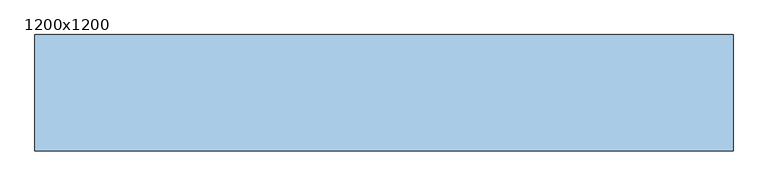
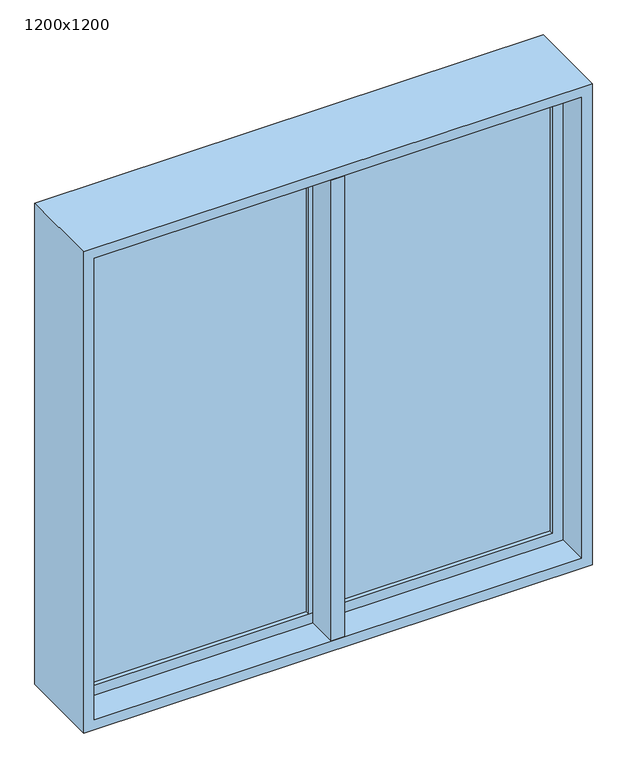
"""IFC4 building model written with IfcOpenShell, lengths in millimetres: window geometry, NBeS_2 Panel Window-w_o Automatic Openable : 1200x1200."""

from ifc_helpers import new_model, si_unit, frame, origin, place, context, project, spatial, polyline, outline, extrude, faceted_brep, source, transform, mapped, element, save


def window_1200x1200_17e9bfca(model_context):
    return source(origin(), model_context, "Body", "SolidModel", [
        faceted_brep([(575.0, 25.0, 2275.0), (575.0, 100.0, 2275.0), (575.0, 100.0, 1125.0), (575.0, 25.0, 1125.0), (600.0, 100.0, 2300.0), (600.0, 100.0, 1100.0), (-600.0, 100.0, 1100.0), (-600.0, 100.0, 2300.0), (-575.0, 100.0, 2275.0), (-575.0, 100.0, 1125.0), (-575.0, 25.0, 1125.0), (-575.0, 25.0, 2275.0), (-550.0, 25.0, 2250.0), (-550.0, 25.0, 1150.0), (550.0, 25.0, 1150.0), (550.0, 25.0, 2250.0), (550.0, -25.0, 2250.0), (550.0, -25.0, 1150.0), (-550.0, -25.0, 1150.0), (-575.0, -25.0, 2275.0), (-575.0, -25.0, 1125.0), (575.0, -25.0, 1125.0), (575.0, -25.0, 2275.0), (-550.0, -25.0, 2250.0), (575.0, -100.0, 2275.0), (575.0, -100.0, 1125.0), (-575.0, -100.0, 1125.0), (-600.0, -100.0, 2300.0), (-600.0, -100.0, 1100.0), (600.0, -100.0, 1100.0), (600.0, -100.0, 2300.0), (-575.0, -100.0, 2275.0)], [[[0, 1, 2, 3]], [[4, 5, 6, 7], [8, 9, 2, 1]], [[3, 2, 9, 10]], [[0, 3, 10, 11], [12, 13, 14, 15]], [[16, 15, 14, 17]], [[17, 14, 13, 18]], [[19, 20, 21, 22], [16, 17, 18, 23]], [[24, 22, 21, 25]], [[25, 21, 20, 26]], [[27, 28, 29, 30], [24, 25, 26, 31]], [[4, 30, 29, 5]], [[5, 29, 28, 6]], [[10, 9, 8, 11]], [[18, 13, 12, 23]], [[26, 20, 19, 31]], [[6, 28, 27, 7]], [[7, 27, 30, 4]], [[11, 8, 1, 0]], [[23, 12, 15, 16]], [[31, 19, 22, 24]]]),
        extrude(outline(polyline([(550.0, 15.0), (550.0, -15.0), (25.9969689, -15.0), (25.9969689, 15.0), (550.0, 15.0)])), frame((0.0, 0.0, 1150.0), z_axis=(0.0, 0.0, 1.0), x_axis=(1.0, 0.0, 0.0)), (0.0, 0.0, 1.0), 1100.0),
        extrude(outline(polyline([(-25.9969689, 15.0), (-25.9969689, -15.0), (-550.0, -15.0), (-550.0, 15.0), (-25.9969689, 15.0)])), frame((0.0, 0.0, 1150.0), z_axis=(0.0, 0.0, 1.0), x_axis=(1.0, 0.0, 0.0)), (0.0, 0.0, 1.0), 1100.0),
        extrude(outline(polyline([(15.9969689, 100.0), (15.9969689, 25.0), (25.9969689, 25.0), (25.9969689, -25.0), (15.9969689, -25.0), (15.9969689, -100.0), (-15.9969689, -100.0), (-15.9969689, -25.0), (-25.9969689, -25.0), (-25.9969689, 25.0), (-15.9969689, 25.0), (-15.9969689, 100.0), (15.9969689, 100.0)])), frame((0.0, 0.0, 1125.0), z_axis=(0.0, 0.0, 1.0), x_axis=(1.0, 0.0, 0.0)), (0.0, 0.0, 1.0), 1150.0),
    ])


if __name__ == "__main__":
    model = new_model("IFC4")
    model_context = context("Model", 3, world=origin())
    ifc_project = project(units=[si_unit("LENGTHUNIT", "METRE", prefix="MILLI")], contexts=[model_context])
    site = spatial("IfcSite", under=ifc_project)
    building = spatial("IfcBuilding", under=site)
    placement = place(None, origin())
    window_1200x1200_shape = window_1200x1200_17e9bfca(model_context)
    element("IfcWindow", 1, ObjectType="NBeS_2 Panel Window-w_o Automatic Openable : 1200x1200", at=placement, inside=building, context=model_context, shape_type="MappedRepresentation", body=[
        mapped(window_1200x1200_shape, transform((0.0, 0.0, 0.0), x_axis=(1.0, 0.0, 0.0), y_axis=(0.0, 1.0, 0.0), z_axis=(0.0, 0.0, 1.0))),
    ])
    save(model, "model.ifc")
